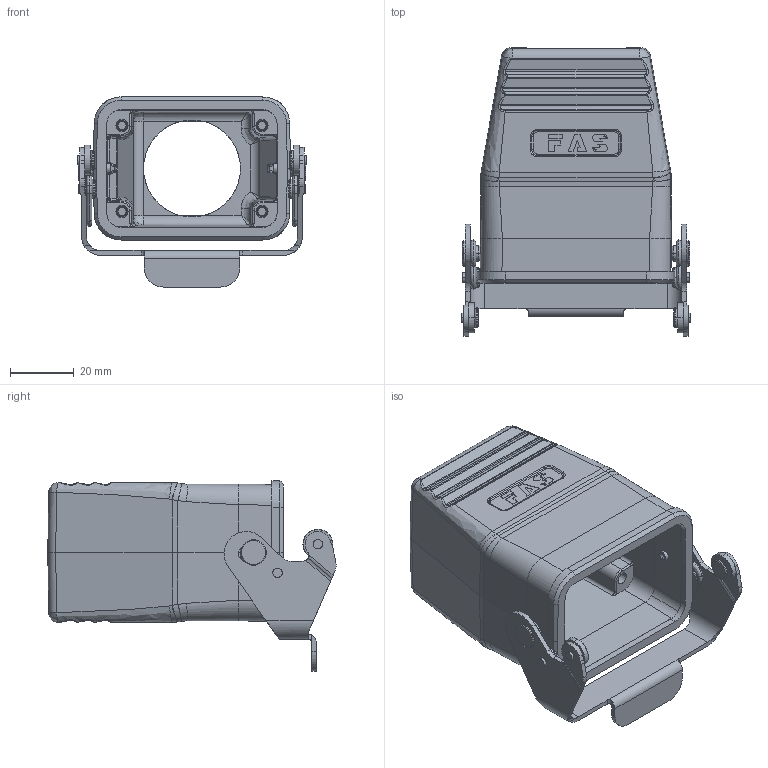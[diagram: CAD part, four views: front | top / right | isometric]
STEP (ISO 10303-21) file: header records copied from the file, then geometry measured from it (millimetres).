
FILE_DESCRIPTION (( 'STEP AP203' ), '1' );
FILE_NAME ('H6B-TBFH-M32.STEP', '2020-11-21T02:34:05', ( '' ), ( '' ), 'SwSTEP 2.0', 'SolidWorks 2016', '' );
FILE_SCHEMA (( 'CONFIG_CONTROL_DESIGN' ));
Length unit declared in the file: millimetre
Products named in the file (9): h6bduijiemifengquan; H6B-TBFH-M32; asm0002; kahuan; h6b_high_hoods-M20; maoding1; maoding; tanhuang; 6bdankou
Assembly tree (14 placements, depth 3):
  H6B-TBFH-M32
    h6bduijiemifengquan
    asm0002
      6bdankou
      kahuan  x2
      maoding1  x4
      tanhuang  x2
      maoding  x2
    h6b_high_hoods-M20
Bounding box: 72.1 x 90.7 x 59.78 mm (x, y, z)
Volume: 62258.8 mm3; surface area: 38075.4 mm2
Topology: 13 solids, 13 shells, 813 faces, 1906 edges, 1153 vertices
Faces by surface type: plane 267, cylinder 252, bspline 246, cone 48
Entity records: 31518 total; most frequent: CARTESIAN_POINT 15767, ORIENTED_EDGE 3376, DIRECTION 2558, EDGE_CURVE 1688, VERTEX_POINT 1030, AXIS2_PLACEMENT_3D 882, VECTOR 794, LINE 794
